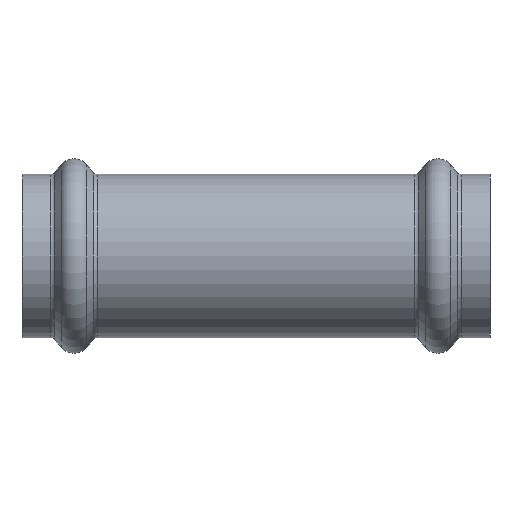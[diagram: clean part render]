
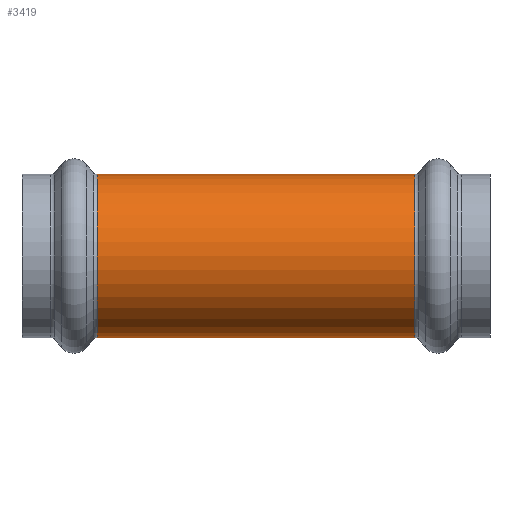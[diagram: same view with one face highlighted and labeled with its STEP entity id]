
A CAD part, front view. The second image highlights one B-rep face of the part: STEP entity #3419.
In plain terms, the highlighted cylindrical face has radius 15.7 mm (diameter 31.4 mm), a partial arc.
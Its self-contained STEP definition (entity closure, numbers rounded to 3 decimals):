
#134 = CIRCLE ( 'NONE', #1267, 15.7 ) ;
#168 = DIRECTION ( 'NONE',  ( 0., 0., 1. ) ) ;
#451 = CARTESIAN_POINT ( 'NONE',  ( -58.611, 0., -15.7 ) ) ;
#453 = DIRECTION ( 'NONE',  ( -1., 0., 0. ) ) ;
#489 = DIRECTION ( 'NONE',  ( -1., 0., 0. ) ) ;
#594 = AXIS2_PLACEMENT_3D ( 'NONE', #783, #453, #168 ) ;
#617 = EDGE_CURVE ( 'NONE', #2227, #1078, #2477, .T. ) ;
#686 = ORIENTED_EDGE ( 'NONE', *, *, #1285, .T. ) ;
#783 = CARTESIAN_POINT ( 'NONE',  ( -58.611, 0., 0. ) ) ;
#993 = CARTESIAN_POINT ( 'NONE',  ( -58.611, 0., 15.7 ) ) ;
#1078 = VERTEX_POINT ( 'NONE', #3744 ) ;
#1161 = ORIENTED_EDGE ( 'NONE', *, *, #1710, .T. ) ;
#1258 = LINE ( 'NONE', #993, #3723 ) ;
#1267 = AXIS2_PLACEMENT_3D ( 'NONE', #3646, #3352, #3632 ) ;
#1276 = DIRECTION ( 'NONE',  ( -1., 0., 0. ) ) ;
#1285 = EDGE_CURVE ( 'NONE', #4187, #1078, #134, .T. ) ;
#1578 = VECTOR ( 'NONE', #489, 1000. ) ;
#1594 = EDGE_CURVE ( 'NONE', #2227, #3114, #2937, .T. ) ;
#1658 = CARTESIAN_POINT ( 'NONE',  ( 30.559, 0., 15.7 ) ) ;
#1710 = EDGE_CURVE ( 'NONE', #3114, #4187, #1258, .T. ) ;
#1765 = CYLINDRICAL_SURFACE ( 'NONE', #594, 15.7 ) ;
#1915 = CARTESIAN_POINT ( 'NONE',  ( -30.559, 0., 15.7 ) ) ;
#1957 = FACE_OUTER_BOUND ( 'NONE', #3971, .T. ) ;
#2150 = AXIS2_PLACEMENT_3D ( 'NONE', #2407, #1276, #3405 ) ;
#2227 = VERTEX_POINT ( 'NONE', #3239 ) ;
#2407 = CARTESIAN_POINT ( 'NONE',  ( 30.559, 0., 0. ) ) ;
#2477 = LINE ( 'NONE', #451, #1578 ) ;
#2669 = ORIENTED_EDGE ( 'NONE', *, *, #617, .F. ) ;
#2937 = CIRCLE ( 'NONE', #2150, 15.7 ) ;
#3114 = VERTEX_POINT ( 'NONE', #1658 ) ;
#3239 = CARTESIAN_POINT ( 'NONE',  ( 30.559, 0., -15.7 ) ) ;
#3352 = DIRECTION ( 'NONE',  ( 1., 0., 0. ) ) ;
#3405 = DIRECTION ( 'NONE',  ( 0., 0., 1. ) ) ;
#3419 = ADVANCED_FACE ( 'NONE', ( #1957 ), #1765, .T. ) ;
#3632 = DIRECTION ( 'NONE',  ( 0., 0., -1. ) ) ;
#3646 = CARTESIAN_POINT ( 'NONE',  ( -30.559, 0., 0. ) ) ;
#3723 = VECTOR ( 'NONE', #3782, 1000. ) ;
#3744 = CARTESIAN_POINT ( 'NONE',  ( -30.559, 0., -15.7 ) ) ;
#3782 = DIRECTION ( 'NONE',  ( -1., 0., 0. ) ) ;
#3900 = ORIENTED_EDGE ( 'NONE', *, *, #1594, .T. ) ;
#3971 = EDGE_LOOP ( 'NONE', ( #2669, #3900, #1161, #686 ) ) ;
#4187 = VERTEX_POINT ( 'NONE', #1915 ) ;
